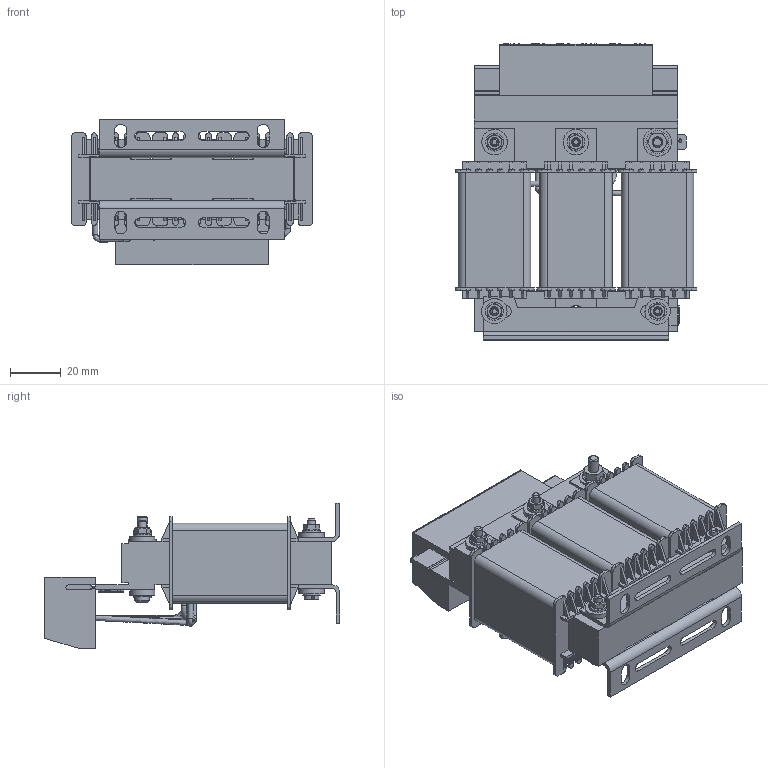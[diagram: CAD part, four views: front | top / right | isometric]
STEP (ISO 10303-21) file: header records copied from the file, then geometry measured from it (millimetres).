
FILE_DESCRIPTION((''),'2;1');
FILE_NAME('K:\PQ\Projects\RWK305\RWK305-7.8-KL_804-159\RWK305-7.8-KL\40_Realisation\402_CAD DB Drawing\4022_Mechanical design\Drawing\RWK305-7.8-KL.stp','2015-12-11T16:38:42',('jingli.yang'),(''),'Autodesk Inventor 2013','Autodesk Inventor 2013','');
FILE_SCHEMA(('AUTOMOTIVE_DESIGN { 1 0 10303 214 1 1 1 1 }'));
Length unit declared in the file: millimetre
Products named in the file (1): Part2
Bounding box: 95 x 116.29 x 57 mm (x, y, z)
Volume: 204433.6 mm3; surface area: 87339.8 mm2
Topology: 1 solids, 4 shells, 1872 faces, 5183 edges, 3287 vertices
Faces by surface type: plane 1416, cylinder 310, bspline 101, cone 23, torus 17, revolution 5
Full cylindrical faces by diameter (mm): 1.5 x1, 2 x8, 3 x6, 3.1 x6, 3.2 x2, 3.3 x8, 4 x2, 4.2 x8, 4.3 x1, 4.5 x9, 4.8 x7, 5.3 x1, 5.7 x4, 7 x9, 7.9 x1, 8 x1, 9 x1, 10 x8, 11 x1
Entity records: 61125 total; most frequent: CARTESIAN_POINT 12308, ORIENTED_EDGE 10014, DIRECTION 9048, EDGE_CURVE 5007, VECTOR 3991, LINE 3991, VERTEX_POINT 3235, AXIS2_PLACEMENT_3D 2526
